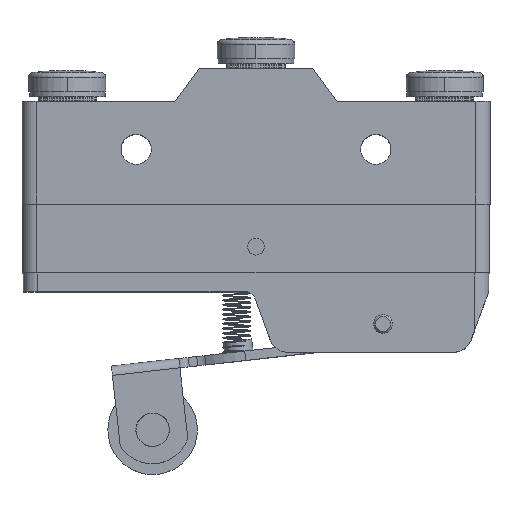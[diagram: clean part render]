
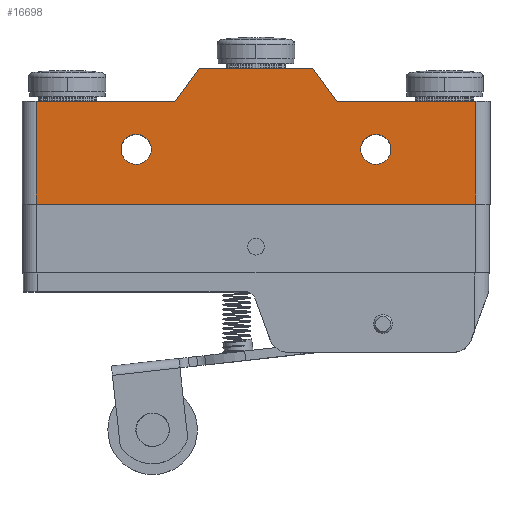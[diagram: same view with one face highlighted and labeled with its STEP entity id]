
A CAD part, top view. The second image highlights one B-rep face of the part: STEP entity #16698.
In plain terms, the highlighted planar face has unit normal (0, 0, 1).
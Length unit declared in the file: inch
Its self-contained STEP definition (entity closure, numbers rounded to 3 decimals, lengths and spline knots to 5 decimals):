
#2656=DIRECTION('',(0.,-1.,0.));
#2657=VECTOR('',#2656,10.9);
#2658=CARTESIAN_POINT('',(77.3107,-15.51007,2.45));
#2659=LINE('',#2658,#2657);
#2660=DIRECTION('',(1.,0.,0.));
#2661=VECTOR('',#2660,14.7);
#2662=CARTESIAN_POINT('',(77.3107,-15.51007,2.45));
#2663=LINE('',#2662,#2661);
#2664=DIRECTION('',(0.596,0.803,0.));
#2665=VECTOR('',#2664,4.36005);
#2666=CARTESIAN_POINT('',(92.0107,-15.51007,2.45));
#2667=LINE('',#2666,#2665);
#2668=DIRECTION('',(1.,0.,0.));
#2669=VECTOR('',#2668,12.);
#2670=CARTESIAN_POINT('',(94.6107,-12.01007,2.45));
#2671=LINE('',#2670,#2669);
#2672=DIRECTION('',(0.596,-0.803,0.));
#2673=VECTOR('',#2672,4.36005);
#2674=CARTESIAN_POINT('',(106.6107,-12.01007,2.45));
#2675=LINE('',#2674,#2673);
#2676=DIRECTION('',(1.,0.,0.));
#2677=VECTOR('',#2676,14.7);
#2678=CARTESIAN_POINT('',(109.2107,-15.51007,2.45));
#2679=LINE('',#2678,#2677);
#2680=DIRECTION('',(-1.,0.,0.));
#2681=VECTOR('',#2680,46.6);
#2682=CARTESIAN_POINT('',(123.9107,-26.41007,2.45));
#2683=LINE('',#2682,#2681);
#2684=CARTESIAN_POINT('',(87.9107,-20.61007,2.45));
#2685=DIRECTION('',(0.,0.,1.));
#2686=DIRECTION('',(1.,0.,0.));
#2687=AXIS2_PLACEMENT_3D('',#2684,#2685,#2686);
#2689=CARTESIAN_POINT('',(87.9107,-20.61007,2.45));
#2690=DIRECTION('',(0.,0.,1.));
#2691=DIRECTION('',(-1.,0.,0.));
#2692=AXIS2_PLACEMENT_3D('',#2689,#2690,#2691);
#2694=CARTESIAN_POINT('',(113.3107,-20.61007,2.45));
#2695=DIRECTION('',(0.,0.,1.));
#2696=DIRECTION('',(1.,0.,0.));
#2697=AXIS2_PLACEMENT_3D('',#2694,#2695,#2696);
#2699=CARTESIAN_POINT('',(113.3107,-20.61007,2.45));
#2700=DIRECTION('',(0.,0.,1.));
#2701=DIRECTION('',(-1.,0.,0.));
#2702=AXIS2_PLACEMENT_3D('',#2699,#2700,#2701);
#2760=DIRECTION('',(0.,1.,0.));
#2761=VECTOR('',#2760,10.9);
#2762=CARTESIAN_POINT('',(123.9107,-26.41007,2.45));
#2763=LINE('',#2762,#2761);
#11793=CARTESIAN_POINT('',(123.9107,-15.51007,2.45));
#11795=VERTEX_POINT('',#11793);
#11796=CARTESIAN_POINT('',(109.2107,-15.51007,2.45));
#11797=VERTEX_POINT('',#11796);
#11804=CARTESIAN_POINT('',(123.9107,-26.41007,2.45));
#11806=VERTEX_POINT('',#11804);
#11809=CARTESIAN_POINT('',(77.3107,-26.41007,2.45));
#11811=VERTEX_POINT('',#11809);
#11838=CARTESIAN_POINT('',(77.3107,-15.51007,2.45));
#11839=VERTEX_POINT('',#11838);
#11858=CARTESIAN_POINT('',(106.6107,-12.01007,2.45));
#11859=VERTEX_POINT('',#11858);
#11860=CARTESIAN_POINT('',(92.0107,-15.51007,2.45));
#11861=VERTEX_POINT('',#11860);
#11862=CARTESIAN_POINT('',(94.6107,-12.01007,2.45));
#11863=VERTEX_POINT('',#11862);
#11864=CARTESIAN_POINT('',(89.5107,-20.61007,2.45));
#11865=CARTESIAN_POINT('',(86.3107,-20.61007,2.45));
#11866=VERTEX_POINT('',#11864);
#11867=VERTEX_POINT('',#11865);
#11868=CARTESIAN_POINT('',(114.9107,-20.61007,2.45));
#11869=CARTESIAN_POINT('',(111.7107,-20.61007,2.45));
#11870=VERTEX_POINT('',#11868);
#11871=VERTEX_POINT('',#11869);
#16666=CARTESIAN_POINT('',(100.6107,-19.21007,2.45));
#16667=DIRECTION('',(0.,0.,1.));
#16668=DIRECTION('',(1.,0.,0.));
#16669=AXIS2_PLACEMENT_3D('',#16666,#16667,#16668);
#16670=PLANE('',#16669);
#16671=ORIENTED_EDGE('',*,*,#16649,.F.);
#16672=ORIENTED_EDGE('',*,*,#16442,.T.);
#16674=ORIENTED_EDGE('',*,*,#16673,.T.);
#16676=ORIENTED_EDGE('',*,*,#16675,.T.);
#16678=ORIENTED_EDGE('',*,*,#16677,.T.);
#16680=ORIENTED_EDGE('',*,*,#16679,.T.);
#16682=ORIENTED_EDGE('',*,*,#16681,.F.);
#16683=ORIENTED_EDGE('',*,*,#16606,.T.);
#16684=EDGE_LOOP('',(#16671,#16672,#16674,#16676,#16678,#16680,#16682,#16683));
#16685=FACE_OUTER_BOUND('',#16684,.F.);
#16687=ORIENTED_EDGE('',*,*,#16686,.T.);
#16689=ORIENTED_EDGE('',*,*,#16688,.T.);
#16690=EDGE_LOOP('',(#16687,#16689));
#16691=FACE_BOUND('',#16690,.F.);
#16693=ORIENTED_EDGE('',*,*,#16692,.T.);
#16695=ORIENTED_EDGE('',*,*,#16694,.T.);
#16696=EDGE_LOOP('',(#16693,#16695));
#16697=FACE_BOUND('',#16696,.F.);
#16698=ADVANCED_FACE('',(#16685,#16691,#16697),#16670,.T.);
#2688=CIRCLE('',#2687,1.6);
#2693=CIRCLE('',#2692,1.6);
#2698=CIRCLE('',#2697,1.6);
#2703=CIRCLE('',#2702,1.6);
#16442=EDGE_CURVE('',#11839,#11861,#2663,.T.);
#16606=EDGE_CURVE('',#11806,#11811,#2683,.T.);
#16649=EDGE_CURVE('',#11839,#11811,#2659,.T.);
#16673=EDGE_CURVE('',#11861,#11863,#2667,.T.);
#16675=EDGE_CURVE('',#11863,#11859,#2671,.T.);
#16677=EDGE_CURVE('',#11859,#11797,#2675,.T.);
#16679=EDGE_CURVE('',#11797,#11795,#2679,.T.);
#16681=EDGE_CURVE('',#11806,#11795,#2763,.T.);
#16686=EDGE_CURVE('',#11866,#11867,#2688,.T.);
#16688=EDGE_CURVE('',#11867,#11866,#2693,.T.);
#16692=EDGE_CURVE('',#11870,#11871,#2698,.T.);
#16694=EDGE_CURVE('',#11871,#11870,#2703,.T.);
